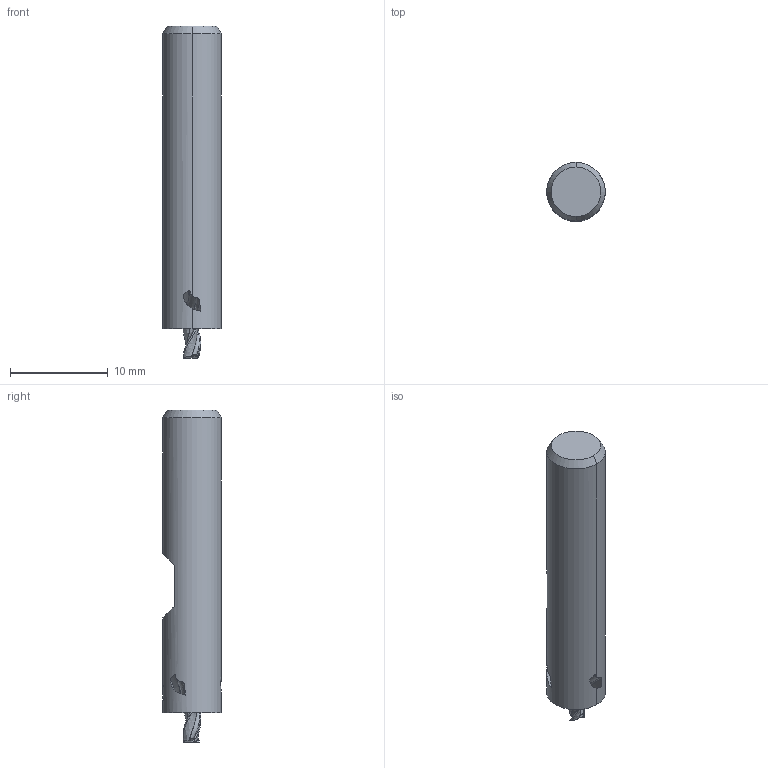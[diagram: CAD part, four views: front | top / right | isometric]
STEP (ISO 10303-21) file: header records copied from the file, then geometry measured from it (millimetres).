
FILE_DESCRIPTION(('no description'),'unknown implementation level');
FILE_NAME('solidD4VLCYdCrBaXuVTWpk1_W9XtlcE_1.STP',' ',('CIMSOURCE GmbH'),('CADClick - KiM GmbH - www.kimweb.de'),'unknown preprocess','ACIS','unknown authorization');
FILE_SCHEMA(('automotive_design'));
Length unit declared in the file: millimetre
Products named in the file (2): NOCUT; CUT
Bounding box: 6 x 6 x 34 mm (x, y, z)
Volume: 839.6 mm3; surface area: 699.7 mm2
Topology: 2 solids, 2 shells, 76 faces, 220 edges, 147 vertices
Faces by surface type: plane 26, revolution 18, bspline 15, cylinder 10, cone 7
Entity records: 7477 total; most frequent: CARTESIAN_POINT 3177, STYLED_ITEM 445, PRESENTATION_STYLE_ASSIGNMENT 445, COLOUR_RGB 445, ORIENTED_EDGE 440, DIRECTION 281, EDGE_CURVE 220, CURVE_STYLE 220
